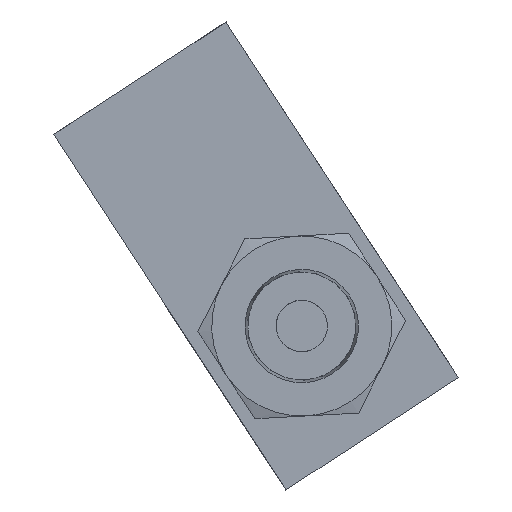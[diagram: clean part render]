
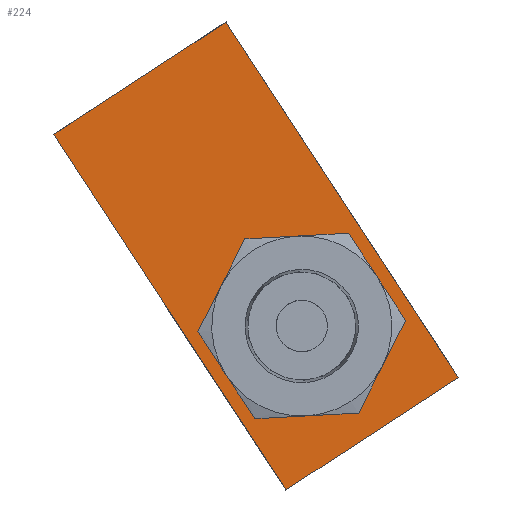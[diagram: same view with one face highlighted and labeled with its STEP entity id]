
A CAD part, left-side view. The second image highlights one B-rep face of the part: STEP entity #224.
In plain terms, the highlighted planar face has unit normal (-1, 0, 0).
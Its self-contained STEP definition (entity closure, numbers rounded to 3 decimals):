
#224=ADVANCED_FACE('',(#368,#369),#370,.F.);
#368=FACE_OUTER_BOUND('',#659,.T.);
#369=FACE_BOUND('',#660,.T.);
#370=PLANE('',#661);
#659=EDGE_LOOP('',(#1011,#1012,#1013,#1014));
#660=EDGE_LOOP('',(#1015,#1016,#1017,#1018,#1019,#1020));
#661=AXIS2_PLACEMENT_3D('',#1021,#1022,#1023);
#1011=ORIENTED_EDGE('',*,*,#1868,.F.);
#1012=ORIENTED_EDGE('',*,*,#1862,.F.);
#1013=ORIENTED_EDGE('',*,*,#1870,.T.);
#1014=ORIENTED_EDGE('',*,*,#1871,.T.);
#1015=ORIENTED_EDGE('',*,*,#1872,.F.);
#1016=ORIENTED_EDGE('',*,*,#1873,.F.);
#1017=ORIENTED_EDGE('',*,*,#1847,.F.);
#1018=ORIENTED_EDGE('',*,*,#1874,.F.);
#1019=ORIENTED_EDGE('',*,*,#1841,.F.);
#1020=ORIENTED_EDGE('',*,*,#1833,.F.);
#1021=CARTESIAN_POINT('',(0.,33.0,8.0));
#1022=DIRECTION('',(1.0,0.0,0.0));
#1023=DIRECTION('',(0.0,1.0,0.0));
#1833=EDGE_CURVE('',#2106,#2104,#2108,.T.);
#1841=EDGE_CURVE('',#2104,#2116,#2122,.T.);
#1847=EDGE_CURVE('',#2127,#2132,#2133,.T.);
#1862=EDGE_CURVE('',#2156,#2158,#2159,.T.);
#1868=EDGE_CURVE('',#2158,#2167,#2169,.T.);
#1870=EDGE_CURVE('',#2156,#2172,#2173,.T.);
#1871=EDGE_CURVE('',#2172,#2167,#2174,.T.);
#1872=EDGE_CURVE('',#2175,#2106,#2176,.T.);
#1873=EDGE_CURVE('',#2132,#2175,#2177,.T.);
#1874=EDGE_CURVE('',#2116,#2127,#2178,.T.);
#2104=VERTEX_POINT('',#2560);
#2106=VERTEX_POINT('',#2564);
#2108=CIRCLE('',#2568,7.0);
#2116=VERTEX_POINT('',#2583);
#2122=CIRCLE('',#2598,7.0);
#2127=VERTEX_POINT('',#2607);
#2132=VERTEX_POINT('',#2617);
#2133=CIRCLE('',#2618,7.0);
#2156=VERTEX_POINT('',#2658);
#2158=VERTEX_POINT('',#2661);
#2159=LINE('',#2662,#2663);
#2167=VERTEX_POINT('',#2672);
#2169=LINE('',#2675,#2676);
#2172=VERTEX_POINT('',#2679);
#2173=LINE('',#2680,#2681);
#2174=LINE('',#2682,#2683);
#2175=VERTEX_POINT('',#2684);
#2176=CIRCLE('',#2685,7.0);
#2177=CIRCLE('',#2686,7.0);
#2178=CIRCLE('',#2687,7.0);
#2560=CARTESIAN_POINT('',(0.,29.062,-3.5));
#2564=CARTESIAN_POINT('',(0.,29.062,3.5));
#2568=AXIS2_PLACEMENT_3D('',#3206,#3207,#3208);
#2583=CARTESIAN_POINT('',(0.,23.0,-7.0));
#2598=AXIS2_PLACEMENT_3D('',#3211,#3212,#3213);
#2607=CARTESIAN_POINT('',(0.,16.938,-3.5));
#2617=CARTESIAN_POINT('',(0.,16.938,3.5));
#2618=AXIS2_PLACEMENT_3D('',#3215,#3216,#3217);
#2658=CARTESIAN_POINT('',(0.,33.0,8.0));
#2661=CARTESIAN_POINT('',(0.,0.0,8.0));
#2662=CARTESIAN_POINT('',(0.,33.0,8.0));
#2663=VECTOR('',#3233,1.0);
#2672=CARTESIAN_POINT('',(0.,0.0,-8.0));
#2675=CARTESIAN_POINT('',(0.,0.0,8.0));
#2676=VECTOR('',#3245,1.0);
#2679=CARTESIAN_POINT('',(0.,33.0,-8.0));
#2680=CARTESIAN_POINT('',(0.,33.0,8.0));
#2681=VECTOR('',#3249,1.0);
#2682=CARTESIAN_POINT('',(0.,33.0,-8.0));
#2683=VECTOR('',#3250,1.0);
#2684=CARTESIAN_POINT('',(0.,23.0,7.0));
#2685=AXIS2_PLACEMENT_3D('',#3251,#3252,#3253);
#2686=AXIS2_PLACEMENT_3D('',#3254,#3255,#3256);
#2687=AXIS2_PLACEMENT_3D('',#3257,#3258,#3259);
#3206=CARTESIAN_POINT('',(0.,23.0,0.0));
#3207=DIRECTION('',(-1.0,0.0,0.0));
#3208=DIRECTION('',(0.0,0.0,-1.0));
#3211=CARTESIAN_POINT('',(0.,23.0,0.0));
#3212=DIRECTION('',(-1.0,0.0,0.0));
#3213=DIRECTION('',(0.0,0.0,-1.0));
#3215=CARTESIAN_POINT('',(0.,23.0,0.0));
#3216=DIRECTION('',(-1.0,0.0,0.0));
#3217=DIRECTION('',(0.0,0.0,-1.0));
#3233=DIRECTION('',(0.0,-1.0,0.0));
#3245=DIRECTION('',(0.0,0.0,-1.0));
#3249=DIRECTION('',(0.0,0.0,-1.0));
#3250=DIRECTION('',(0.0,-1.0,0.0));
#3251=CARTESIAN_POINT('',(0.,23.0,0.0));
#3252=DIRECTION('',(-1.0,0.0,0.0));
#3253=DIRECTION('',(0.0,0.0,-1.0));
#3254=CARTESIAN_POINT('',(0.,23.0,0.0));
#3255=DIRECTION('',(-1.0,0.0,0.0));
#3256=DIRECTION('',(0.0,0.0,-1.0));
#3257=CARTESIAN_POINT('',(0.,23.0,0.0));
#3258=DIRECTION('',(-1.0,0.0,0.0));
#3259=DIRECTION('',(0.0,0.0,-1.0));
